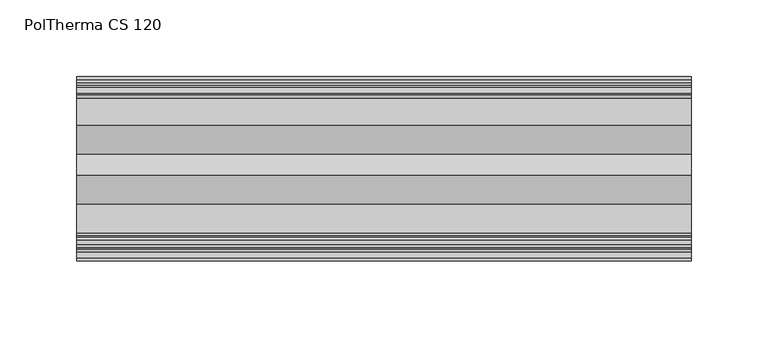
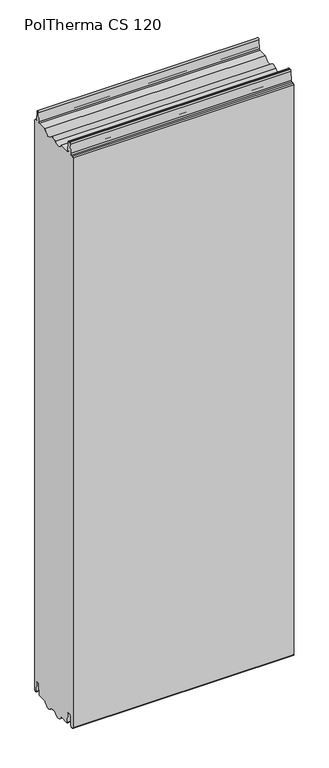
"""IFC4 building model written with IfcOpenShell, lengths in millimetres: plate geometry, Europanels_Poltherma CS_Hz : PolTherma CS 120."""

import ifcopenshell
import ifcopenshell.guid

model = None  # the IFC model being written
_history = None  # IfcOwnerHistory: only IFC2X3 demands one
_inside = {}  # id of a spatial element -> (the spatial element, [elements in it])
_under = {}  # id of a project, library or spatial element -> (it, [spatial elements below it])
_declared = {}  # id of a project -> (the project, [libraries it declares])
_typed = {}  # id of a type object -> (the type object, [elements of that type])
_made_of = {}  # id of a material, layer set ... -> (it, [elements and type objects made of it])


def new_model(schema):
    """Start an empty IFC model of exactly this schema.

    Asked for "IFC4X3", IfcOpenShell would pick the latest addendum, in which some entities
    have other attributes; the version numbers below select the first issue.
    IFC2X3 requires an IfcOwnerHistory on every rooted entity: one is made here for all.
    """
    global model, _history
    if schema == "IFC4X3":
        model = ifcopenshell.file(schema_version=(4, 3, 0, 0))
    else:
        model = ifcopenshell.file(schema=schema)
    _inside.clear()
    _under.clear()
    _declared.clear()
    _typed.clear()
    _made_of.clear()
    _history = None
    if model.schema == "IFC2X3":
        org = make("IfcOrganization", Name="unknown")
        user = make(
            "IfcPersonAndOrganization",
            ThePerson=make("IfcPerson", FamilyName="unknown"),
            TheOrganization=org,
        )
        app = make(
            "IfcApplication",
            ApplicationDeveloper=org,
            Version="unknown",
            ApplicationFullName="unknown",
            ApplicationIdentifier="unknown",
        )
        _history = make(
            "IfcOwnerHistory",
            OwningUser=user,
            OwningApplication=app,
            ChangeAction="ADDED",
            CreationDate=0,
        )
    return model


def make(cls, **values):
    """One entity of the class cls with the attributes given. An attribute that is None is left unset."""
    return model.create_entity(
        cls, **{name: value for name, value in values.items() if value is not None}
    )


def rooted(cls, **values):
    """An entity with a GlobalId (a new one), such as an element, a storey or a relation."""
    return make(cls, GlobalId=ifcopenshell.guid.new(), OwnerHistory=_history, **values)


def si_unit(unit_type, name, prefix=None):
    """IfcSIUnit, for example si_unit("LENGTHUNIT", "METRE", prefix="MILLI")."""
    return make("IfcSIUnit", UnitType=unit_type, Prefix=prefix, Name=name)


def assignment(units):
    """IfcUnitAssignment: the units of a project."""
    return None if units is None else make("IfcUnitAssignment", Units=units)


def point(xyz):
    """IfcCartesianPoint."""
    return None if xyz is None else make("IfcCartesianPoint", Coordinates=xyz)


def direction(xyz):
    """IfcDirection."""
    return None if xyz is None else make("IfcDirection", DirectionRatios=xyz)


def frame(location, z_axis=None, x_axis=None):
    """IfcAxis2Placement3D, a coordinate frame: its origin and axes. An axis left out is left unset."""
    return make(
        "IfcAxis2Placement3D",
        Location=point(location),
        Axis=direction(z_axis),
        RefDirection=direction(x_axis),
    )


def frame_2d(location, x_axis=None):
    """IfcAxis2Placement2D, a coordinate frame in the plane: its origin and x axis."""
    return make(
        "IfcAxis2Placement2D", Location=point(location), RefDirection=direction(x_axis)
    )


def origin():
    """The frame at (0, 0, 0) with its axes left unset."""
    return frame((0.0, 0.0, 0.0))


def place(relative_to, where):
    """IfcLocalPlacement: puts the frame where relative to a parent placement (None: the world)."""
    return make(
        "IfcLocalPlacement", PlacementRelTo=relative_to, RelativePlacement=where
    )


def context(
    kind, dimensions, precision=None, world=None, true_north=None, identifier=None
):
    """IfcGeometricRepresentationContext, for example the 3D "Model" context."""
    return make(
        "IfcGeometricRepresentationContext",
        ContextIdentifier=identifier,
        ContextType=kind,
        CoordinateSpaceDimension=dimensions,
        Precision=precision,
        WorldCoordinateSystem=world,
        TrueNorth=true_north,
    )


def project(units=None, contexts=None):
    """IfcProject with its units and contexts."""
    return rooted(
        "IfcProject",
        Name="project",
        RepresentationContexts=contexts,
        UnitsInContext=assignment(units),
    )


def spatial(cls, under=None, at=None, **own):
    """A site, building, storey or space (cls), placed at a placement, below another one or the project."""
    s = rooted(cls, ObjectPlacement=at, **own)
    if under is not None:
        _under.setdefault(under.id(), (under, []))[1].append(s)
    return s


def polyline(points):
    """IfcPolyline through the points."""
    return make("IfcPolyline", Points=[point(p) for p in points])


def circle_curve(where, radius):
    """IfcCircle in the frame where."""
    return make("IfcCircle", Position=where, Radius=radius)


def trimmed(basis, trim1, trim2, sense, master):
    """IfcTrimmedCurve: the piece of a basis curve between two trims."""
    return make(
        "IfcTrimmedCurve",
        BasisCurve=basis,
        Trim1=trim1,
        Trim2=trim2,
        SenseAgreement=sense,
        MasterRepresentation=master,
    )


def segment(curve, same_sense, transition):
    """IfcCompositeCurveSegment."""
    return make(
        "IfcCompositeCurveSegment",
        Transition=transition,
        SameSense=same_sense,
        ParentCurve=curve,
    )


def composite_curve(segments, self_intersect=None):
    """IfcCompositeCurve: segments joined end to end."""
    return make("IfcCompositeCurve", Segments=segments, SelfIntersect=self_intersect)


def outline(outer, holes=None, kind="AREA"):
    """IfcArbitraryClosedProfileDef: a profile drawn as a closed curve; with holes, ...WithVoids."""
    if holes is None:
        return make("IfcArbitraryClosedProfileDef", ProfileType=kind, OuterCurve=outer)
    return make(
        "IfcArbitraryProfileDefWithVoids",
        ProfileType=kind,
        OuterCurve=outer,
        InnerCurves=holes,
    )


def extrude(swept, where, along, depth):
    """IfcExtrudedAreaSolid: the profile swept, set in the frame where, extruded along a direction by depth."""
    return make(
        "IfcExtrudedAreaSolid",
        SweptArea=swept,
        Position=where,
        ExtrudedDirection=direction(along),
        Depth=depth,
    )


def shape(context_of_items, identifier, shape_type, items):
    """IfcShapeRepresentation: the items that make up one representation, for example the "Body"."""
    return make(
        "IfcShapeRepresentation",
        ContextOfItems=context_of_items,
        RepresentationIdentifier=identifier,
        RepresentationType=shape_type,
        Items=items,
    )


def source(mapping_origin, context_of_items, identifier, shape_type, items):
    """IfcRepresentationMap: a shape defined once, which mapped items show again and again."""
    return make(
        "IfcRepresentationMap",
        MappingOrigin=mapping_origin,
        MappedRepresentation=shape(context_of_items, identifier, shape_type, items),
    )


def transform(
    local_origin,
    x_axis=None,
    y_axis=None,
    z_axis=None,
    scale=None,
    scale2=None,
    scale3=None,
    uniform=True,
):
    """IfcCartesianTransformationOperator3D, or its non-uniform kind. x_axis, y_axis, z_axis: its Axis1, 2, 3."""
    if uniform:
        return make(
            "IfcCartesianTransformationOperator3D",
            Axis1=direction(x_axis),
            Axis2=direction(y_axis),
            LocalOrigin=point(local_origin),
            Scale=scale,
            Axis3=direction(z_axis),
        )
    return make(
        "IfcCartesianTransformationOperator3DnonUniform",
        Axis1=direction(x_axis),
        Axis2=direction(y_axis),
        LocalOrigin=point(local_origin),
        Scale=scale,
        Axis3=direction(z_axis),
        Scale2=scale2,
        Scale3=scale3,
    )


def mapped(mapping_source, mapping_target):
    """IfcMappedItem: shows the shape of a source again, moved by a transform."""
    return make(
        "IfcMappedItem", MappingSource=mapping_source, MappingTarget=mapping_target
    )


def made_of(thing, what):
    """Note that an element or type object is made of a material, layer set ...; save() writes the relation."""
    if what is not None:
        _made_of.setdefault(what.id(), (what, []))[1].append(thing)
    return thing


def element(
    cls,
    number,
    at=None,
    inside=None,
    cuts=None,
    type_object=None,
    material=None,
    context=None,
    identifier="Body",
    shape_type=None,
    held_by="IfcProductDefinitionShape",
    body=None,
    shapes=None,
    **own,
):
    """One element of the class cls, such as IfcWall. Its Tag is "e" and its number.

    at: its placement. inside: the storey or other place that contains it. cuts: it is an
    opening in that element (IfcRelVoidsElement). A single representation is given by context,
    identifier, shape_type and body (its items); several are given by shapes. held_by: the class
    of the entity that holds the representations. save() writes the other relations.
    """
    e = rooted(cls, Tag="e%d" % number, ObjectPlacement=at, **own)
    if body is not None:
        shapes = [shape(context, identifier, shape_type, body)]
    if shapes is not None:
        e.Representation = make(held_by, Representations=shapes)
    if inside is not None:
        _inside.setdefault(inside.id(), (inside, []))[1].append(e)
    if cuts is not None:
        rooted(
            "IfcRelVoidsElement", RelatingBuildingElement=cuts, RelatedOpeningElement=e
        )
    if type_object is not None:
        _typed.setdefault(type_object.id(), (type_object, []))[1].append(e)
    return made_of(e, material)


def aggregate(whole, parts):
    """IfcRelAggregates: a whole, such as a stair, and the parts it consists of."""
    return rooted("IfcRelAggregates", RelatingObject=whole, RelatedObjects=parts)


def save(model, path):
    """Write the relations noted so far, then the file.

    IfcRelAggregates (storeys below a building ...), IfcRelContainedInSpatialStructure (elements
    in a storey), IfcRelDefinesByType, IfcRelAssociatesMaterial and IfcRelDeclares: one each for
    every whole, place, type object, material and project.
    """
    for whole, parts in _under.values():
        aggregate(whole, parts)
    for where, things in _inside.values():
        rooted(
            "IfcRelContainedInSpatialStructure",
            RelatedElements=things,
            RelatingStructure=where,
        )
    for kind, things in _typed.values():
        rooted("IfcRelDefinesByType", RelatedObjects=things, RelatingType=kind)
    for what, things in _made_of.values():
        rooted("IfcRelAssociatesMaterial", RelatedObjects=things, RelatingMaterial=what)
    for by, libraries in _declared.values():
        rooted("IfcRelDeclares", RelatingContext=by, RelatedDefinitions=libraries)
    model.write(path)


def poltherma_cs_120_78175f20(model_context):
    return source(origin(), model_context, "Body", "SweptSolid", [
        extrude(outline(composite_curve([segment(polyline([(-60.0, 3.4988953), (-60.0, 1096.5011047)]), True, "CONTINUOUS"), segment(trimmed(circle_curve(frame_2d((-58.0, 1096.5011047)), 2.0), [point((-60.0, 1096.5011047))], [point((-58.0, 1098.5011047))], False, "CARTESIAN"), True, "CONTINUOUS"), segment(polyline([(-58.0, 1098.5011047), (-54.244573, 1098.5011047)]), True, "CONTINUOUS"), segment(trimmed(circle_curve(frame_2d((-54.244573, 1100.5011047)), 2.0), [point((-54.244573, 1098.5011047))], [point((-52.2483736, 1100.3778643))], True, "CARTESIAN"), True, "CONTINUOUS"), segment(polyline([(-52.2483736, 1100.3778643), (-51.1836192, 1117.624345)]), True, "CONTINUOUS"), segment(trimmed(circle_curve(frame_2d((-49.1874198, 1117.5011047)), 2.0), [point((-51.1836192, 1117.624345))], [point((-49.1874198, 1119.5011047))], False, "CARTESIAN"), True, "CONTINUOUS"), segment(polyline([(-49.1874198, 1119.5011047), (-46.4480373, 1119.5011047)]), True, "CONTINUOUS"), segment(trimmed(circle_curve(frame_2d((-46.4480373, 1117.5011047)), 2.0), [point((-46.4480373, 1119.5011047))], [point((-44.4498501, 1117.5862394))], False, "CARTESIAN"), True, "CONTINUOUS"), segment(polyline([(-44.4498501, 1117.5862394), (-43.7101357, 1100.2244834)]), True, "CONTINUOUS"), segment(trimmed(circle_curve(frame_2d((-41.9117672, 1100.3011047)), 1.8), [point((-43.7101357, 1100.2244834))], [point((-41.9117672, 1098.5011047))], True, "CARTESIAN"), True, "CONTINUOUS"), segment(polyline([(-41.9117672, 1098.5011047), (-22.9234285, 1098.5011047)]), True, "CONTINUOUS"), segment(trimmed(circle_curve(frame_2d((-12.3, 1101.354658)), 11.0), [point((-22.9234285, 1098.5011047))], [point((-4.05, 1094.0788419))], True, "CARTESIAN"), True, "CONTINUOUS"), segment(trimmed(circle_curve(frame_2d((2.7, 1088.1259015)), 9.0), [point((-4.05, 1094.0788419))], [point((9.45, 1094.0788419))], False, "CARTESIAN"), True, "CONTINUOUS"), segment(trimmed(circle_curve(frame_2d((17.7, 1101.354658)), 11.0), [point((9.45, 1094.0788419))], [point((28.3234285, 1098.5011047))], True, "CARTESIAN"), True, "CONTINUOUS"), segment(polyline([(28.3234285, 1098.5011047), (46.113894, 1098.5011047)]), True, "CONTINUOUS"), segment(trimmed(circle_curve(frame_2d((46.113894, 1100.5011047)), 2.0), [point((46.113894, 1098.5011047))], [point((48.1120505, 1100.4152514))], True, "CARTESIAN"), True, "CONTINUOUS"), segment(polyline([(48.1120505, 1100.4152514), (48.8434291, 1117.437418)]), True, "CONTINUOUS"), segment(trimmed(circle_curve(frame_2d((51.0191836, 1117.343934)), 2.1777619), [point((48.8434291, 1117.437418))], [point((53.1927202, 1117.4795275))], False, "CARTESIAN"), True, "CONTINUOUS"), segment(polyline([(53.1927202, 1117.4795275), (54.2596673, 1100.3765791)]), True, "CONTINUOUS"), segment(trimmed(circle_curve(frame_2d((56.2557869, 1100.5011047)), 2.0), [point((54.2596673, 1100.3765791))], [point((56.2557869, 1098.5011047))], True, "CARTESIAN"), True, "CONTINUOUS"), segment(polyline([(56.2557869, 1098.5011047), (58.0, 1098.5011047)]), True, "CONTINUOUS"), segment(trimmed(circle_curve(frame_2d((58.0, 1096.5011047)), 2.0), [point((58.0, 1098.5011047))], [point((60.0, 1096.5011047))], False, "CARTESIAN"), True, "CONTINUOUS"), segment(polyline([(60.0, 1096.5011047), (60.0, 3.8623872)]), True, "CONTINUOUS"), segment(trimmed(circle_curve(frame_2d((57.6319739, 3.8623872)), 2.3680261), [point((60.0, 3.8623872))], [point((55.2674058, 3.7344618))], False, "CARTESIAN"), True, "CONTINUOUS"), segment(polyline([(55.2674058, 3.7344618), (54.3293468, 21.0735079)]), True, "CONTINUOUS"), segment(trimmed(circle_curve(frame_2d((51.0496929, 20.8960755)), 3.28445), [point((54.3293468, 21.0735079))], [point((47.7706872, 21.085108))], True, "CARTESIAN"), True, "CONTINUOUS"), segment(polyline([(47.7706872, 21.085108), (46.7366349, 3.1481762)]), True, "CONTINUOUS"), segment(trimmed(circle_curve(frame_2d((44.9895357, 3.2488953)), 1.75), [point((46.7366349, 3.1481762))], [point((44.9895357, 1.4988953))], False, "CARTESIAN"), True, "CONTINUOUS"), segment(polyline([(44.9895357, 1.4988953), (27.5267156, 1.4988953)]), True, "CONTINUOUS"), segment(trimmed(circle_curve(frame_2d((17.7, 3.3524487)), 10.0), [point((27.5267156, 1.4988953))], [point((10.2, -3.2619295))], False, "CARTESIAN"), True, "CONTINUOUS"), segment(trimmed(circle_curve(frame_2d((2.7, -9.8763078)), 10.0), [point((10.2, -3.2619295))], [point((-4.8, -3.2619295))], True, "CARTESIAN"), True, "CONTINUOUS"), segment(trimmed(circle_curve(frame_2d((-12.3, 3.3524487)), 10.0), [point((-4.8, -3.2619295))], [point((-22.1267156, 1.4988953))], False, "CARTESIAN"), True, "CONTINUOUS"), segment(polyline([(-22.1267156, 1.4988953), (-40.5507777, 1.4988953)]), True, "CONTINUOUS"), segment(trimmed(circle_curve(frame_2d((-40.5507777, 3.2988953)), 1.8), [point((-40.5507777, 1.4988953))], [point((-42.3477941, 3.1952985))], False, "CARTESIAN"), True, "CONTINUOUS"), segment(polyline([(-42.3477941, 3.1952985), (-43.3842966, 21.1747334)]), True, "CONTINUOUS"), segment(trimmed(circle_curve(frame_2d((-46.3793238, 21.0020721)), 3.0), [point((-43.3842966, 21.1747334))], [point((-46.3793238, 24.0020721))], True, "CARTESIAN"), True, "CONTINUOUS"), segment(polyline([(-46.3793238, 24.0020721), (-49.3209015, 24.0020721)]), True, "CONTINUOUS"), segment(trimmed(circle_curve(frame_2d((-49.3209015, 21.0020721)), 3.0), [point((-49.3209015, 24.0020721))], [point((-52.3165207, 21.1641379))], True, "CARTESIAN"), True, "CONTINUOUS"), segment(polyline([(-52.3165207, 21.1641379), (-53.2780726, 3.3908514)]), True, "CONTINUOUS"), segment(trimmed(circle_curve(frame_2d((-55.2751521, 3.4988953)), 2.0), [point((-53.2780726, 3.3908514))], [point((-55.2751521, 1.4988953))], False, "CARTESIAN"), True, "CONTINUOUS"), segment(polyline([(-55.2751521, 1.4988953), (-58.0, 1.4988953)]), True, "CONTINUOUS"), segment(trimmed(circle_curve(frame_2d((-58.0, 3.4988953)), 2.0), [point((-58.0, 1.4988953))], [point((-60.0, 3.4988953))], False, "CARTESIAN"), True, "CONTINUOUS")], self_intersect=False)), frame((-200.0, 0.0, 0.0), z_axis=(1.0, 0.0, 0.0), x_axis=(0.0, 1.0, 0.0)), (0.0, 0.0, 1.0), 400.0),
    ])


if __name__ == "__main__":
    model = new_model("IFC4")
    model_context = context("Model", 3, world=origin())
    ifc_project = project(units=[si_unit("LENGTHUNIT", "METRE", prefix="MILLI")], contexts=[model_context])
    site = spatial("IfcSite", under=ifc_project)
    building = spatial("IfcBuilding", under=site)
    placement = place(None, origin())
    poltherma_cs_120_shape = poltherma_cs_120_78175f20(model_context)
    element("IfcPlate", 1, ObjectType="Europanels_Poltherma CS_Hz : PolTherma CS 120", at=placement, inside=building, context=model_context, shape_type="MappedRepresentation", body=[
        mapped(poltherma_cs_120_shape, transform((0.0, 0.0, 0.0), x_axis=(1.0, 0.0, 0.0), y_axis=(0.0, 1.0, 0.0), z_axis=(0.0, 0.0, 1.0))),
    ])
    save(model, "model.ifc")
